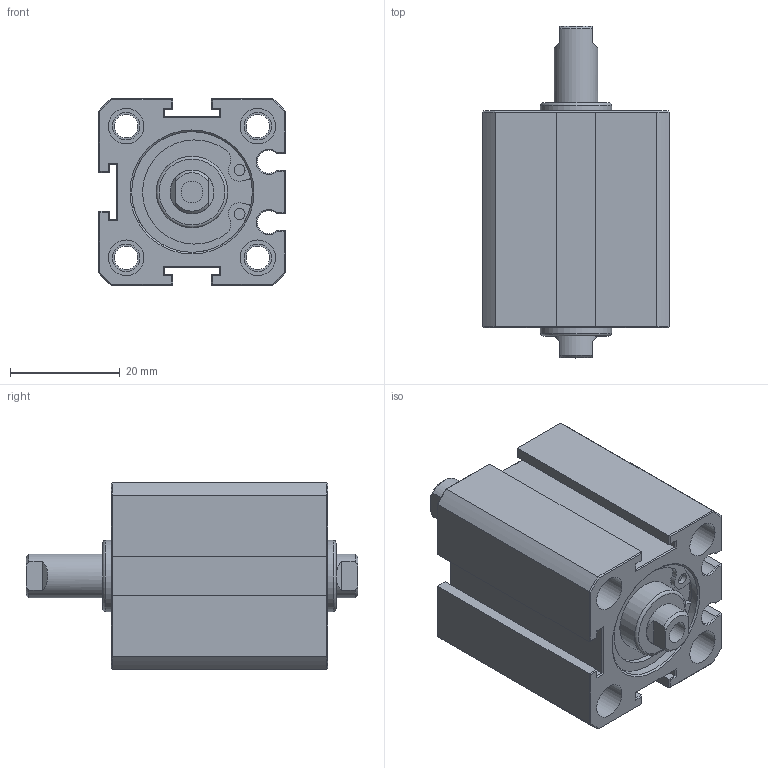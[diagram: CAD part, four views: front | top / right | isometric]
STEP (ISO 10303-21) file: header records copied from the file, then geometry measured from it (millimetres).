
FILE_DESCRIPTION(/* description */ (''),/* implementation_level */ '2;1');
FILE_NAME(/* name */ 'AJC-SWM20X10N',/* time_stamp */ '2019-07-19T10:21:23+08:00',/* author */ ('JEFF HUANG'),/* organization */ ('TAIWAN AMAC CLAMP INDUSTRIAL CO., LTD.'),/* preprocessor_version */ 'ST-DEVELOPER v16.7',/* originating_system */ 'DEX',/* authorisation */ $);
FILE_SCHEMA (('AUTOMOTIVE_DESIGN {1 0 10303 214 3 1 1}'));
Length unit declared in the file: millimetre
Products named in the file (1): AJC-SWM20X10N
Bounding box: 34 x 60.5 x 34 mm (x, y, z)
Volume: 36998.3 mm3; surface area: 13418.9 mm2
Topology: 1 solids, 1 shells, 223 faces, 485 edges, 294 vertices
Faces by surface type: plane 150, cylinder 53, cone 18, torus 2
Full cylindrical faces by diameter (mm): 2 x4, 4 x2, 4.3 x4, 5 x10, 6.5 x8, 8 x1, 13 x2, 22 x2
Entity records: 7373 total; most frequent: CARTESIAN_POINT 1052, DIRECTION 994, ORIENTED_EDGE 886, EDGE_CURVE 443, AXIS2_PLACEMENT_3D 359, EDGE_LOOP 298, FACE_BOUND 298, VERTEX_POINT 289
